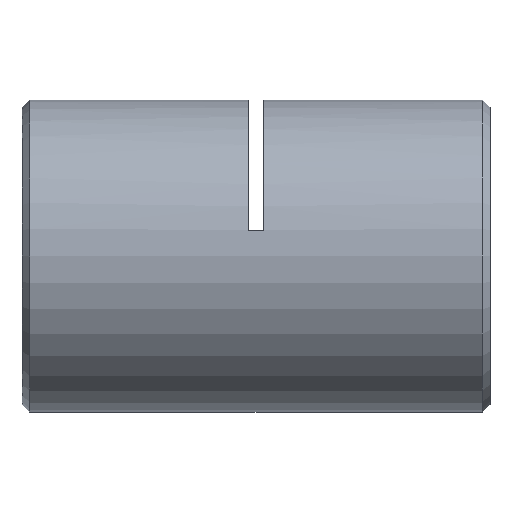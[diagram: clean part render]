
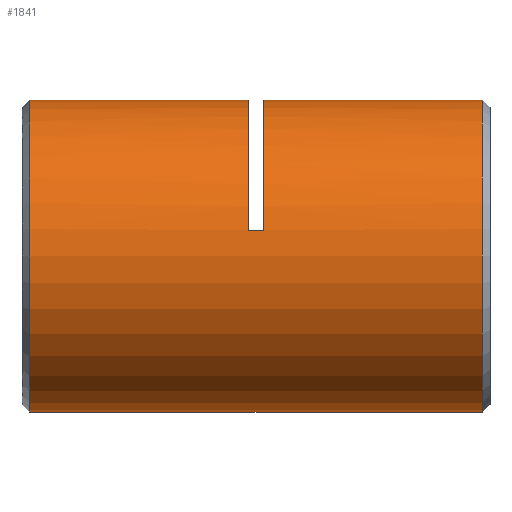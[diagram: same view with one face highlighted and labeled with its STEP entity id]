
A CAD part, left-side view. The second image highlights one B-rep face of the part: STEP entity #1841.
In plain terms, the highlighted cylindrical face has radius 10 mm (diameter 20 mm), a partial arc.
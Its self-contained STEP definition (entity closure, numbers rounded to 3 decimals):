
#78 = VERTEX_POINT ( 'NONE', #468 ) ;
#170 = CARTESIAN_POINT ( 'NONE',  ( 0., 29.75, 0. ) ) ;
#174 = EDGE_CURVE ( 'NONE', #3669, #3613, #2561, .T. ) ;
#259 = ORIENTED_EDGE ( 'NONE', *, *, #3441, .T. ) ;
#274 = CARTESIAN_POINT ( 'NONE',  ( 0., 0., 10. ) ) ;
#387 = CARTESIAN_POINT ( 'NONE',  ( -9.86, 15.25, 1.667 ) ) ;
#468 = CARTESIAN_POINT ( 'NONE',  ( 0., 29.75, 10. ) ) ;
#548 = CIRCLE ( 'NONE', #4407, 10. ) ;
#567 = CYLINDRICAL_SURFACE ( 'NONE', #5060, 10. ) ;
#646 = DIRECTION ( 'NONE',  ( 0., 0., 1. ) ) ;
#721 = DIRECTION ( 'NONE',  ( 0., 1., 0. ) ) ;
#733 = ORIENTED_EDGE ( 'NONE', *, *, #174, .F. ) ;
#826 = CARTESIAN_POINT ( 'NONE',  ( -9.86, 14.75, 1.667 ) ) ;
#837 = FACE_OUTER_BOUND ( 'NONE', #3175, .T. ) ;
#857 = DIRECTION ( 'NONE',  ( 0., 0., 1. ) ) ;
#930 = CARTESIAN_POINT ( 'NONE',  ( 0., 0., 0. ) ) ;
#949 = CARTESIAN_POINT ( 'NONE',  ( 0., 0., -10. ) ) ;
#959 = EDGE_CURVE ( 'NONE', #2468, #1799, #2564, .T. ) ;
#1260 = CARTESIAN_POINT ( 'NONE',  ( 0., 15.75, 10. ) ) ;
#1350 = AXIS2_PLACEMENT_3D ( 'NONE', #3280, #2724, #646 ) ;
#1508 = VECTOR ( 'NONE', #3764, 1000. ) ;
#1573 = CIRCLE ( 'NONE', #2687, 10. ) ;
#1739 = ORIENTED_EDGE ( 'NONE', *, *, #4277, .T. ) ;
#1763 = ORIENTED_EDGE ( 'NONE', *, *, #1904, .T. ) ;
#1799 = VERTEX_POINT ( 'NONE', #2476 ) ;
#1840 = LINE ( 'NONE', #274, #1508 ) ;
#1841 = ADVANCED_FACE ( 'NONE', ( #837 ), #567, .T. ) ;
#1894 = EDGE_CURVE ( 'NONE', #2468, #3459, #2919, .T. ) ;
#1904 = EDGE_CURVE ( 'NONE', #1799, #4653, #5643, .T. ) ;
#1939 = CARTESIAN_POINT ( 'NONE',  ( 0., 15.75, 0. ) ) ;
#1943 = ORIENTED_EDGE ( 'NONE', *, *, #2493, .T. ) ;
#2213 = VECTOR ( 'NONE', #4960, 1000. ) ;
#2333 = DIRECTION ( 'NONE',  ( 0., -1., 0. ) ) ;
#2468 = VERTEX_POINT ( 'NONE', #826 ) ;
#2476 = CARTESIAN_POINT ( 'NONE',  ( -9.86, 15.75, 1.667 ) ) ;
#2493 = EDGE_CURVE ( 'NONE', #5030, #3459, #1840, .T. ) ;
#2515 = DIRECTION ( 'NONE',  ( 0., 1., 0. ) ) ;
#2561 = LINE ( 'NONE', #949, #2213 ) ;
#2564 = LINE ( 'NONE', #387, #5299 ) ;
#2658 = DIRECTION ( 'NONE',  ( 0., 0., 1. ) ) ;
#2687 = AXIS2_PLACEMENT_3D ( 'NONE', #3486, #5200, #857 ) ;
#2724 = DIRECTION ( 'NONE',  ( 0., 1., 0. ) ) ;
#2776 = EDGE_CURVE ( 'NONE', #4653, #78, #5279, .T. ) ;
#2918 = AXIS2_PLACEMENT_3D ( 'NONE', #1939, #4913, #4600 ) ;
#2919 = CIRCLE ( 'NONE', #1350, 10. ) ;
#2955 = CARTESIAN_POINT ( 'NONE',  ( 0., 0.75, -10. ) ) ;
#3175 = EDGE_LOOP ( 'NONE', ( #733, #1739, #1943, #4970, #5440, #1763, #4519, #259 ) ) ;
#3211 = DIRECTION ( 'NONE',  ( 0., 0., -1. ) ) ;
#3280 = CARTESIAN_POINT ( 'NONE',  ( 0., 14.75, 0. ) ) ;
#3441 = EDGE_CURVE ( 'NONE', #78, #3613, #548, .T. ) ;
#3459 = VERTEX_POINT ( 'NONE', #3672 ) ;
#3486 = CARTESIAN_POINT ( 'NONE',  ( 0., 0.75, 0. ) ) ;
#3585 = VECTOR ( 'NONE', #721, 1000. ) ;
#3613 = VERTEX_POINT ( 'NONE', #5577 ) ;
#3669 = VERTEX_POINT ( 'NONE', #2955 ) ;
#3672 = CARTESIAN_POINT ( 'NONE',  ( 0., 14.75, 10. ) ) ;
#3764 = DIRECTION ( 'NONE',  ( 0., 1., 0. ) ) ;
#3833 = CARTESIAN_POINT ( 'NONE',  ( 0., 0.75, 10. ) ) ;
#4277 = EDGE_CURVE ( 'NONE', #3669, #5030, #1573, .T. ) ;
#4407 = AXIS2_PLACEMENT_3D ( 'NONE', #170, #2333, #3211 ) ;
#4519 = ORIENTED_EDGE ( 'NONE', *, *, #2776, .T. ) ;
#4600 = DIRECTION ( 'NONE',  ( 0., 0., 1. ) ) ;
#4653 = VERTEX_POINT ( 'NONE', #1260 ) ;
#4913 = DIRECTION ( 'NONE',  ( 0., 1., 0. ) ) ;
#4960 = DIRECTION ( 'NONE',  ( 0., 1., 0. ) ) ;
#4970 = ORIENTED_EDGE ( 'NONE', *, *, #1894, .F. ) ;
#5030 = VERTEX_POINT ( 'NONE', #3833 ) ;
#5060 = AXIS2_PLACEMENT_3D ( 'NONE', #930, #5282, #2658 ) ;
#5200 = DIRECTION ( 'NONE',  ( 0., 1., 0. ) ) ;
#5279 = LINE ( 'NONE', #5569, #3585 ) ;
#5282 = DIRECTION ( 'NONE',  ( 0., 1., 0. ) ) ;
#5299 = VECTOR ( 'NONE', #2515, 1000. ) ;
#5440 = ORIENTED_EDGE ( 'NONE', *, *, #959, .T. ) ;
#5569 = CARTESIAN_POINT ( 'NONE',  ( 0., 0., 10. ) ) ;
#5577 = CARTESIAN_POINT ( 'NONE',  ( 0., 29.75, -10. ) ) ;
#5643 = CIRCLE ( 'NONE', #2918, 10. ) ;
